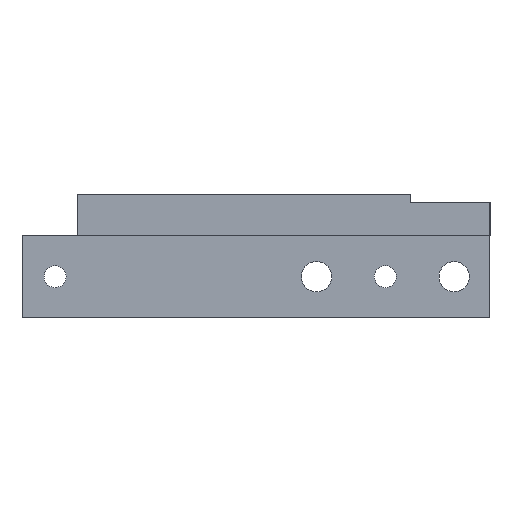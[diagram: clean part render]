
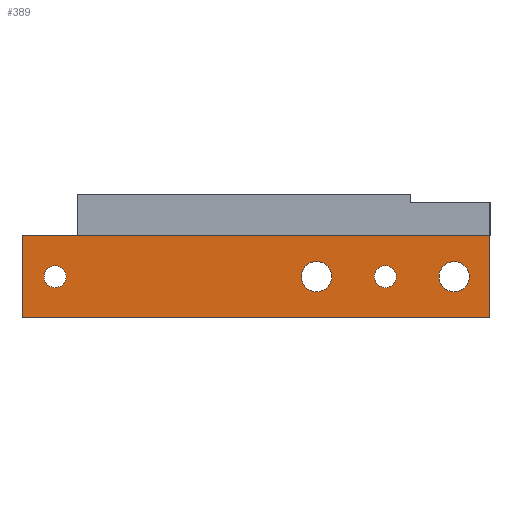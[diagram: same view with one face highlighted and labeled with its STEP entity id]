
A CAD part, left-side view. The second image highlights one B-rep face of the part: STEP entity #389.
In plain terms, the highlighted planar face has unit normal (-1, 0, 0).
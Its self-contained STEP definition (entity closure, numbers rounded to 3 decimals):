
#237=FACE_BOUND('',#573,.T.);
#238=FACE_BOUND('',#574,.T.);
#239=FACE_BOUND('',#575,.T.);
#240=FACE_BOUND('',#576,.T.);
#241=FACE_BOUND('',#577,.T.);
#337=CIRCLE('',#1238,4.);
#338=CIRCLE('',#1239,4.);
#339=CIRCLE('',#1240,5.5);
#340=CIRCLE('',#1241,5.5);
#389=ADVANCED_FACE('',(#237,#238,#239,#240,#241),#413,.T.);
#413=PLANE('',#1242);
#573=EDGE_LOOP('',(#800));
#574=EDGE_LOOP('',(#801));
#575=EDGE_LOOP('',(#802));
#576=EDGE_LOOP('',(#803));
#577=EDGE_LOOP('',(#804,#805,#806,#807));
#800=ORIENTED_EDGE('',*,*,#1040,.T.);
#801=ORIENTED_EDGE('',*,*,#1041,.T.);
#802=ORIENTED_EDGE('',*,*,#1042,.T.);
#803=ORIENTED_EDGE('',*,*,#1043,.T.);
#804=ORIENTED_EDGE('',*,*,#1019,.T.);
#805=ORIENTED_EDGE('',*,*,#1023,.T.);
#806=ORIENTED_EDGE('',*,*,#1031,.T.);
#807=ORIENTED_EDGE('',*,*,#1034,.T.);
#908=VERTEX_POINT('',#1783);
#909=VERTEX_POINT('',#1784);
#912=VERTEX_POINT('',#1792);
#919=VERTEX_POINT('',#1808);
#925=VERTEX_POINT('',#1826);
#926=VERTEX_POINT('',#1828);
#927=VERTEX_POINT('',#1830);
#928=VERTEX_POINT('',#1832);
#1019=EDGE_CURVE('',#908,#909,#1066,.T.);
#1023=EDGE_CURVE('',#909,#912,#1070,.T.);
#1031=EDGE_CURVE('',#912,#919,#1073,.T.);
#1034=EDGE_CURVE('',#919,#908,#1076,.T.);
#1040=EDGE_CURVE('',#925,#925,#337,.T.);
#1041=EDGE_CURVE('',#926,#926,#338,.T.);
#1042=EDGE_CURVE('',#927,#927,#339,.T.);
#1043=EDGE_CURVE('',#928,#928,#340,.T.);
#1066=LINE('',#1782,#1100);
#1070=LINE('',#1791,#1104);
#1073=LINE('',#1807,#1107);
#1076=LINE('',#1813,#1110);
#1100=VECTOR('',#1498,1.);
#1104=VECTOR('',#1504,1.);
#1107=VECTOR('',#1519,1.);
#1110=VECTOR('',#1524,1.);
#1238=AXIS2_PLACEMENT_3D('',#1825,#1538,#1539);
#1239=AXIS2_PLACEMENT_3D('',#1827,#1540,#1541);
#1240=AXIS2_PLACEMENT_3D('',#1829,#1542,#1543);
#1241=AXIS2_PLACEMENT_3D('',#1831,#1544,#1545);
#1242=AXIS2_PLACEMENT_3D('',#1833,#1546,#1547);
#1498=DIRECTION('',(0.,-1.,0.));
#1504=DIRECTION('',(0.,0.,1.));
#1519=DIRECTION('',(0.,1.,0.));
#1524=DIRECTION('',(0.,0.,-1.));
#1538=DIRECTION('',(1.,0.,0.));
#1539=DIRECTION('',(0.,1.,0.));
#1540=DIRECTION('',(1.,0.,0.));
#1541=DIRECTION('',(0.,1.,0.));
#1542=DIRECTION('',(1.,0.,0.));
#1543=DIRECTION('',(0.,1.,0.));
#1544=DIRECTION('',(1.,0.,0.));
#1545=DIRECTION('',(0.,1.,0.));
#1546=DIRECTION('',(-1.,0.,0.));
#1547=DIRECTION('',(0.,-1.,0.));
#1782=CARTESIAN_POINT('',(-1400.,233.036,-356.148));
#1783=CARTESIAN_POINT('',(-1400.,233.036,-356.148));
#1784=CARTESIAN_POINT('',(-1400.,63.036,-356.148));
#1791=CARTESIAN_POINT('',(-1400.,63.036,-356.148));
#1792=CARTESIAN_POINT('',(-1400.,63.036,-326.148));
#1807=CARTESIAN_POINT('',(-1400.,63.036,-326.148));
#1808=CARTESIAN_POINT('',(-1400.,233.036,-326.148));
#1813=CARTESIAN_POINT('',(-1400.,233.036,-326.148));
#1825=CARTESIAN_POINT('',(-1400.,221.036,-341.148));
#1826=CARTESIAN_POINT('',(-1400.,225.036,-341.148));
#1827=CARTESIAN_POINT('',(-1400.,101.036,-341.148));
#1828=CARTESIAN_POINT('',(-1400.,105.036,-341.148));
#1829=CARTESIAN_POINT('',(-1400.,126.036,-341.148));
#1830=CARTESIAN_POINT('',(-1400.,131.536,-341.148));
#1831=CARTESIAN_POINT('',(-1400.,76.036,-341.148));
#1832=CARTESIAN_POINT('',(-1400.,81.536,-341.148));
#1833=CARTESIAN_POINT('',(-1400.,63.036,-326.148));
